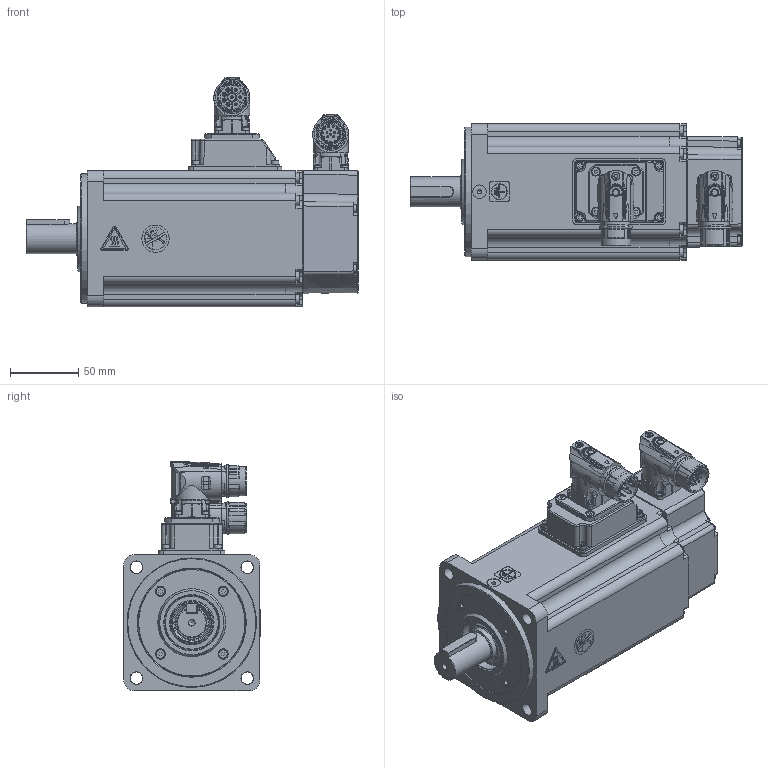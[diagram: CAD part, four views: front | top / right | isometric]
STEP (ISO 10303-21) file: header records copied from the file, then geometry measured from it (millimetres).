
FILE_DESCRIPTION( ( 'Unknown' ), '1' );
FILE_NAME( 'U:/05_Progetto TCE/010-TCE motor drawings/TCE100/vuoti/TCE100 4B XX 3 A2 0 C2.stp', 'Unknown', ( 'Unknown' ), ( 'Unknown' ), 'PSStep 17.0.49', 'Unknown', ' ' );
FILE_SCHEMA( ( 'AUTOMOTIVE_DESIGN { 1 0 10303 214 1 1 1 1 }' ) );
Length unit declared in the file: millimetre
Products named in the file (15): 005911000430
Bounding box: 243.5 x 100.3 x 168.5 mm (x, y, z)
Volume: 765231.8 mm3; surface area: 271264.5 mm2
Topology: 15 solids, 90 shells, 2955 faces, 7362 edges, 4746 vertices
Faces by surface type: plane 1447, cylinder 716, cone 285, bspline 194, torus 164, sphere 111, extrusion 38
Full cylindrical faces by diameter (mm): 0.5 x1, 1 x21, 1.2 x17, 1.4 x4, 2 x4, 2.013 x4, 2.2 x2, 2.459 x24, 2.5 x8, 2.6 x4, 2.8 x4, 3 x29, 3.2 x1, 3.242 x35, 3.5 x8, 4 x21, 4.4 x4, 4.5 x14, 4.7 x4, 4.917 x1, 5.5 x11, 5.8 x1, 5.9 x2, 6.8 x1, 7 x16, 7.5 x4, 8 x5, 10 x1, 11 x1, 12 x1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
Entity records: 115829 total; most frequent: CARTESIAN_POINT 30312, DIRECTION 13174, ORIENTED_EDGE 12750, EDGE_CURVE 6375, AXIS2_PLACEMENT_3D 4926, VERTEX_POINT 4503, EDGE_LOOP 3894, FACE_OUTER_BOUND 3390
